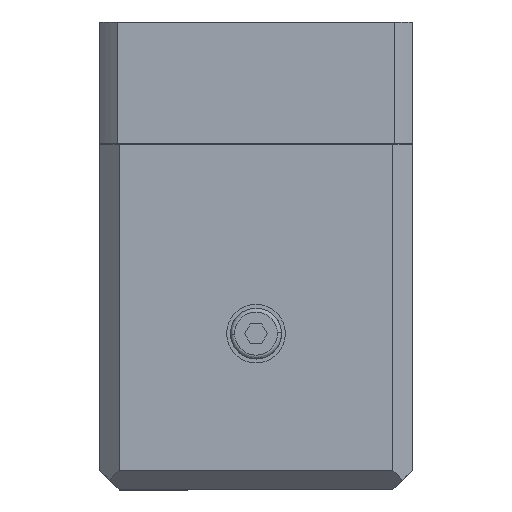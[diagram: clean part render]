
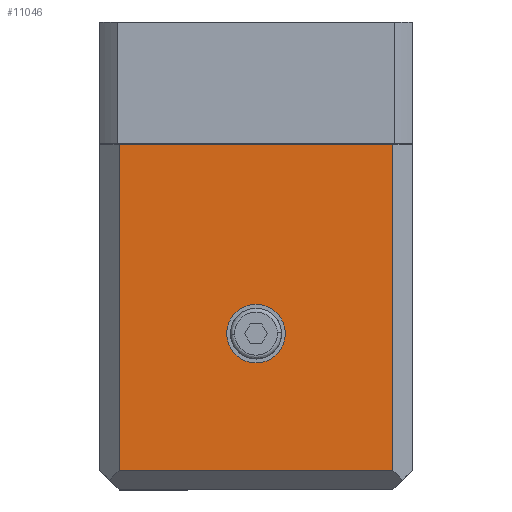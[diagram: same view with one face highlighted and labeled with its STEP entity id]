
A CAD part, left-side view. The second image highlights one B-rep face of the part: STEP entity #11046.
In plain terms, the highlighted planar face has unit normal (-1, 0, 0).
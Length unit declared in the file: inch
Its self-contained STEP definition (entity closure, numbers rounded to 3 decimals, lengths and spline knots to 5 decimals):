
#38 = EDGE_LOOP ( 'NONE', ( #7405, #9605, #11783, #11443 ) ) ;
#100 = VERTEX_POINT ( 'NONE', #5264 ) ;
#109 = CARTESIAN_POINT ( 'NONE',  ( -8.62205, -1.37795, -1.37795 ) ) ;
#163 = VERTEX_POINT ( 'NONE', #601 ) ;
#209 = PLANE ( 'NONE',  #5834 ) ;
#464 = DIRECTION ( 'NONE',  ( 0., 0., 1. ) ) ;
#601 = CARTESIAN_POINT ( 'NONE',  ( -8.62205, 0., -0.29528 ) ) ;
#1032 = LINE ( 'NONE', #9392, #6478 ) ;
#1137 = CARTESIAN_POINT ( 'NONE',  ( -8.62205, 0., 0. ) ) ;
#1267 = CARTESIAN_POINT ( 'NONE',  ( -8.62205, 0., 0. ) ) ;
#1323 = DIRECTION ( 'NONE',  ( 0., 0., 1. ) ) ;
#2015 = VERTEX_POINT ( 'NONE', #109 ) ;
#2210 = DIRECTION ( 'NONE',  ( 0., 0., 1. ) ) ;
#2964 = VERTEX_POINT ( 'NONE', #5631 ) ;
#3443 = CARTESIAN_POINT ( 'NONE',  ( -8.62205, 0., -1.37795 ) ) ;
#3571 = ORIENTED_EDGE ( 'NONE', *, *, #13944, .T. ) ;
#3850 = VECTOR ( 'NONE', #4988, 39.37008 ) ;
#4064 = DIRECTION ( 'NONE',  ( 0., 0., -1. ) ) ;
#4274 = EDGE_CURVE ( 'NONE', #2964, #8036, #10704, .T. ) ;
#4549 = AXIS2_PLACEMENT_3D ( 'NONE', #13459, #6993, #464 ) ;
#4563 = VERTEX_POINT ( 'NONE', #13141 ) ;
#4957 = VECTOR ( 'NONE', #6040, 39.37008 ) ;
#4988 = DIRECTION ( 'NONE',  ( 0., 1., 0. ) ) ;
#5014 = AXIS2_PLACEMENT_3D ( 'NONE', #1137, #8709, #2210 ) ;
#5264 = CARTESIAN_POINT ( 'NONE',  ( -8.62205, 0., 0.29528 ) ) ;
#5502 = CIRCLE ( 'NONE', #5014, 0.29528 ) ;
#5631 = CARTESIAN_POINT ( 'NONE',  ( -8.62205, 1.37795, -1.37795 ) ) ;
#5814 = EDGE_CURVE ( 'NONE', #2015, #2964, #14070, .T. ) ;
#5834 = AXIS2_PLACEMENT_3D ( 'NONE', #1267, #7822, #1323 ) ;
#6040 = DIRECTION ( 'NONE',  ( 0., 0., 1. ) ) ;
#6478 = VECTOR ( 'NONE', #4064, 39.37008 ) ;
#6526 = EDGE_CURVE ( 'NONE', #163, #100, #5502, .T. ) ;
#6993 = DIRECTION ( 'NONE',  ( 1., 0., 0. ) ) ;
#7152 = CARTESIAN_POINT ( 'NONE',  ( -8.62205, 1.37795, 0.16732 ) ) ;
#7405 = ORIENTED_EDGE ( 'NONE', *, *, #12365, .F. ) ;
#7479 = EDGE_LOOP ( 'NONE', ( #3571, #12856 ) ) ;
#7822 = DIRECTION ( 'NONE',  ( -1., 0., 0. ) ) ;
#8036 = VERTEX_POINT ( 'NONE', #13484 ) ;
#8107 = CIRCLE ( 'NONE', #4549, 0.29528 ) ;
#8229 = LINE ( 'NONE', #11455, #3850 ) ;
#8596 = FACE_BOUND ( 'NONE', #7479, .T. ) ;
#8709 = DIRECTION ( 'NONE',  ( 1., 0., 0. ) ) ;
#8784 = EDGE_CURVE ( 'NONE', #4563, #8036, #8229, .T. ) ;
#9392 = CARTESIAN_POINT ( 'NONE',  ( -8.62205, -1.37795, 0.16732 ) ) ;
#9605 = ORIENTED_EDGE ( 'NONE', *, *, #8784, .T. ) ;
#10704 = LINE ( 'NONE', #7152, #4957 ) ;
#11007 = DIRECTION ( 'NONE',  ( 0., 1., 0. ) ) ;
#11046 = ADVANCED_FACE ( 'NONE', ( #8596, #12524 ), #209, .T. ) ;
#11179 = VECTOR ( 'NONE', #11007, 39.37008 ) ;
#11443 = ORIENTED_EDGE ( 'NONE', *, *, #5814, .F. ) ;
#11455 = CARTESIAN_POINT ( 'NONE',  ( -8.62205, 0., 1.90551 ) ) ;
#11783 = ORIENTED_EDGE ( 'NONE', *, *, #4274, .F. ) ;
#12365 = EDGE_CURVE ( 'NONE', #4563, #2015, #1032, .T. ) ;
#12524 = FACE_OUTER_BOUND ( 'NONE', #38, .T. ) ;
#12856 = ORIENTED_EDGE ( 'NONE', *, *, #6526, .T. ) ;
#13141 = CARTESIAN_POINT ( 'NONE',  ( -8.62205, -1.37795, 1.90551 ) ) ;
#13459 = CARTESIAN_POINT ( 'NONE',  ( -8.62205, 0., 0. ) ) ;
#13484 = CARTESIAN_POINT ( 'NONE',  ( -8.62205, 1.37795, 1.90551 ) ) ;
#13944 = EDGE_CURVE ( 'NONE', #100, #163, #8107, .T. ) ;
#14070 = LINE ( 'NONE', #3443, #11179 ) ;
